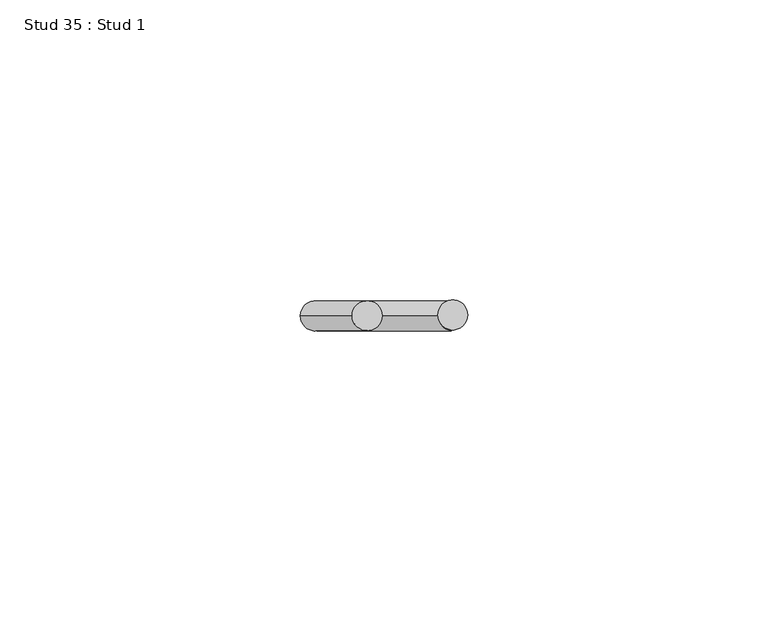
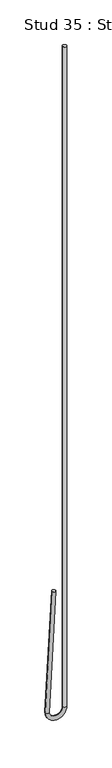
"""IFC4 building model written with IfcOpenShell, lengths in millimetres: proxy geometry, Stud 35 : Stud 1."""

import ifcopenshell
import ifcopenshell.guid

model = None  # the IFC model being written
_history = None  # IfcOwnerHistory: only IFC2X3 demands one
_inside = {}  # id of a spatial element -> (the spatial element, [elements in it])
_under = {}  # id of a project, library or spatial element -> (it, [spatial elements below it])
_declared = {}  # id of a project -> (the project, [libraries it declares])
_typed = {}  # id of a type object -> (the type object, [elements of that type])
_made_of = {}  # id of a material, layer set ... -> (it, [elements and type objects made of it])


def new_model(schema):
    """Start an empty IFC model of exactly this schema.

    Asked for "IFC4X3", IfcOpenShell would pick the latest addendum, in which some entities
    have other attributes; the version numbers below select the first issue.
    IFC2X3 requires an IfcOwnerHistory on every rooted entity: one is made here for all.
    """
    global model, _history
    if schema == "IFC4X3":
        model = ifcopenshell.file(schema_version=(4, 3, 0, 0))
    else:
        model = ifcopenshell.file(schema=schema)
    _inside.clear()
    _under.clear()
    _declared.clear()
    _typed.clear()
    _made_of.clear()
    _history = None
    if model.schema == "IFC2X3":
        org = make("IfcOrganization", Name="unknown")
        user = make(
            "IfcPersonAndOrganization",
            ThePerson=make("IfcPerson", FamilyName="unknown"),
            TheOrganization=org,
        )
        app = make(
            "IfcApplication",
            ApplicationDeveloper=org,
            Version="unknown",
            ApplicationFullName="unknown",
            ApplicationIdentifier="unknown",
        )
        _history = make(
            "IfcOwnerHistory",
            OwningUser=user,
            OwningApplication=app,
            ChangeAction="ADDED",
            CreationDate=0,
        )
    return model


def make(cls, **values):
    """One entity of the class cls with the attributes given. An attribute that is None is left unset."""
    return model.create_entity(
        cls, **{name: value for name, value in values.items() if value is not None}
    )


def rooted(cls, **values):
    """An entity with a GlobalId (a new one), such as an element, a storey or a relation."""
    return make(cls, GlobalId=ifcopenshell.guid.new(), OwnerHistory=_history, **values)


def si_unit(unit_type, name, prefix=None):
    """IfcSIUnit, for example si_unit("LENGTHUNIT", "METRE", prefix="MILLI")."""
    return make("IfcSIUnit", UnitType=unit_type, Prefix=prefix, Name=name)


def assignment(units):
    """IfcUnitAssignment: the units of a project."""
    return None if units is None else make("IfcUnitAssignment", Units=units)


def point(xyz):
    """IfcCartesianPoint."""
    return None if xyz is None else make("IfcCartesianPoint", Coordinates=xyz)


def direction(xyz):
    """IfcDirection."""
    return None if xyz is None else make("IfcDirection", DirectionRatios=xyz)


def frame(location, z_axis=None, x_axis=None):
    """IfcAxis2Placement3D, a coordinate frame: its origin and axes. An axis left out is left unset."""
    return make(
        "IfcAxis2Placement3D",
        Location=point(location),
        Axis=direction(z_axis),
        RefDirection=direction(x_axis),
    )


def origin():
    """The frame at (0, 0, 0) with its axes left unset."""
    return frame((0.0, 0.0, 0.0))


def place(relative_to, where):
    """IfcLocalPlacement: puts the frame where relative to a parent placement (None: the world)."""
    return make(
        "IfcLocalPlacement", PlacementRelTo=relative_to, RelativePlacement=where
    )


def context(
    kind, dimensions, precision=None, world=None, true_north=None, identifier=None
):
    """IfcGeometricRepresentationContext, for example the 3D "Model" context."""
    return make(
        "IfcGeometricRepresentationContext",
        ContextIdentifier=identifier,
        ContextType=kind,
        CoordinateSpaceDimension=dimensions,
        Precision=precision,
        WorldCoordinateSystem=world,
        TrueNorth=true_north,
    )


def project(units=None, contexts=None):
    """IfcProject with its units and contexts."""
    return rooted(
        "IfcProject",
        Name="project",
        RepresentationContexts=contexts,
        UnitsInContext=assignment(units),
    )


def spatial(cls, under=None, at=None, **own):
    """A site, building, storey or space (cls), placed at a placement, below another one or the project."""
    s = rooted(cls, ObjectPlacement=at, **own)
    if under is not None:
        _under.setdefault(under.id(), (under, []))[1].append(s)
    return s


def circle_curve(where, radius):
    """IfcCircle in the frame where."""
    return make("IfcCircle", Position=where, Radius=radius)


def ellipse_curve(where, semi_axis1, semi_axis2):
    """IfcEllipse in the frame where."""
    return make(
        "IfcEllipse", Position=where, SemiAxis1=semi_axis1, SemiAxis2=semi_axis2
    )


def trimmed(basis, trim1, trim2, sense, master):
    """IfcTrimmedCurve: the piece of a basis curve between two trims."""
    return make(
        "IfcTrimmedCurve",
        BasisCurve=basis,
        Trim1=trim1,
        Trim2=trim2,
        SenseAgreement=sense,
        MasterRepresentation=master,
    )


def shape(context_of_items, identifier, shape_type, items):
    """IfcShapeRepresentation: the items that make up one representation, for example the "Body"."""
    return make(
        "IfcShapeRepresentation",
        ContextOfItems=context_of_items,
        RepresentationIdentifier=identifier,
        RepresentationType=shape_type,
        Items=items,
    )


def source(mapping_origin, context_of_items, identifier, shape_type, items):
    """IfcRepresentationMap: a shape defined once, which mapped items show again and again."""
    return make(
        "IfcRepresentationMap",
        MappingOrigin=mapping_origin,
        MappedRepresentation=shape(context_of_items, identifier, shape_type, items),
    )


def transform(
    local_origin,
    x_axis=None,
    y_axis=None,
    z_axis=None,
    scale=None,
    scale2=None,
    scale3=None,
    uniform=True,
):
    """IfcCartesianTransformationOperator3D, or its non-uniform kind. x_axis, y_axis, z_axis: its Axis1, 2, 3."""
    if uniform:
        return make(
            "IfcCartesianTransformationOperator3D",
            Axis1=direction(x_axis),
            Axis2=direction(y_axis),
            LocalOrigin=point(local_origin),
            Scale=scale,
            Axis3=direction(z_axis),
        )
    return make(
        "IfcCartesianTransformationOperator3DnonUniform",
        Axis1=direction(x_axis),
        Axis2=direction(y_axis),
        LocalOrigin=point(local_origin),
        Scale=scale,
        Axis3=direction(z_axis),
        Scale2=scale2,
        Scale3=scale3,
    )


def mapped(mapping_source, mapping_target):
    """IfcMappedItem: shows the shape of a source again, moved by a transform."""
    return make(
        "IfcMappedItem", MappingSource=mapping_source, MappingTarget=mapping_target
    )


def made_of(thing, what):
    """Note that an element or type object is made of a material, layer set ...; save() writes the relation."""
    if what is not None:
        _made_of.setdefault(what.id(), (what, []))[1].append(thing)
    return thing


def element(
    cls,
    number,
    at=None,
    inside=None,
    cuts=None,
    type_object=None,
    material=None,
    context=None,
    identifier="Body",
    shape_type=None,
    held_by="IfcProductDefinitionShape",
    body=None,
    shapes=None,
    **own,
):
    """One element of the class cls, such as IfcWall. Its Tag is "e" and its number.

    at: its placement. inside: the storey or other place that contains it. cuts: it is an
    opening in that element (IfcRelVoidsElement). A single representation is given by context,
    identifier, shape_type and body (its items); several are given by shapes. held_by: the class
    of the entity that holds the representations. save() writes the other relations.
    """
    e = rooted(cls, Tag="e%d" % number, ObjectPlacement=at, **own)
    if body is not None:
        shapes = [shape(context, identifier, shape_type, body)]
    if shapes is not None:
        e.Representation = make(held_by, Representations=shapes)
    if inside is not None:
        _inside.setdefault(inside.id(), (inside, []))[1].append(e)
    if cuts is not None:
        rooted(
            "IfcRelVoidsElement", RelatingBuildingElement=cuts, RelatedOpeningElement=e
        )
    if type_object is not None:
        _typed.setdefault(type_object.id(), (type_object, []))[1].append(e)
    return made_of(e, material)


def aggregate(whole, parts):
    """IfcRelAggregates: a whole, such as a stair, and the parts it consists of."""
    return rooted("IfcRelAggregates", RelatingObject=whole, RelatedObjects=parts)


def save(model, path):
    """Write the relations noted so far, then the file.

    IfcRelAggregates (storeys below a building ...), IfcRelContainedInSpatialStructure (elements
    in a storey), IfcRelDefinesByType, IfcRelAssociatesMaterial and IfcRelDeclares: one each for
    every whole, place, type object, material and project.
    """
    for whole, parts in _under.values():
        aggregate(whole, parts)
    for where, things in _inside.values():
        rooted(
            "IfcRelContainedInSpatialStructure",
            RelatedElements=things,
            RelatingStructure=where,
        )
    for kind, things in _typed.values():
        rooted("IfcRelDefinesByType", RelatedObjects=things, RelatingType=kind)
    for what, things in _made_of.values():
        rooted("IfcRelAssociatesMaterial", RelatedObjects=things, RelatingMaterial=what)
    for by, libraries in _declared.values():
        rooted("IfcRelDeclares", RelatingContext=by, RelatedDefinitions=libraries)
    model.write(path)


def plane_surface(at):
    """IfcPlane: the flat surface through the origin of the frame at, square to its z axis."""
    return make("IfcPlane", Position=at)


def cylinder_surface(at, radius):
    """IfcCylindricalSurface: all points at the distance radius from the z axis of the frame at."""
    return make("IfcCylindricalSurface", Position=at, Radius=radius)


def revolved_surface(curve, axis_point, axis_direction):
    """IfcSurfaceOfRevolution: the curve turned about the line through axis_point along axis_direction."""
    return make(
        "IfcSurfaceOfRevolution",
        SweptCurve=make("IfcArbitraryOpenProfileDef", ProfileType="CURVE", Curve=curve),
        AxisPosition=make("IfcAxis1Placement", Location=point(axis_point), Axis=direction(axis_direction)),
    )


def advanced_brep(points, edges, surfaces, faces):
    """IfcAdvancedBrep: a solid bounded by faces that lie on surfaces and meet in shared edges.

    An edge is (start, end): straight between two places in points (the first is 0);
    or (start, end, curve); or (start, end, curve, False) where it runs against its curve.
    A face is (place in surfaces, loops), or (place, loops, False) where it looks against
    its surface's normal. A loop lists edges by number (the first is 1), with a minus sign
    where the edge is run from its end to its start. The first loop is the outer one.
    """
    corners = [point(p) for p in points]
    vertices = [make("IfcVertexPoint", VertexGeometry=c) for c in corners]
    made = []
    for start, end, *more in edges:
        made.append(
            make(
                "IfcEdgeCurve",
                EdgeStart=vertices[start],
                EdgeEnd=vertices[end],
                EdgeGeometry=more[0] if more else make("IfcPolyline", Points=[corners[start], corners[end]]),
                SameSense=more[1] if len(more) > 1 else True,
            )
        )
    hull = []
    for where, loops, *sense in faces:
        bounds = []
        for j, loop in enumerate(loops):
            ring = [make("IfcOrientedEdge", EdgeElement=made[abs(k) - 1], Orientation=k > 0) for k in loop]
            bounds.append(
                make(
                    "IfcFaceOuterBound" if j == 0 else "IfcFaceBound",
                    Bound=make("IfcEdgeLoop", EdgeList=ring),
                    Orientation=True,
                )
            )
        hull.append(make("IfcAdvancedFace", Bounds=bounds, FaceSurface=surfaces[where], SameSense=sense[0] if sense else True))
    return make("IfcAdvancedBrep", Outer=make("IfcClosedShell", CfsFaces=hull))


def stud_35_stud_1_98c25c34(model_context):
    return source(origin(), model_context, "Body", "AdvancedBrep", [
        advanced_brep(
        [(-14671.4532788, 5867.5191481, 3640.800192), (-14666.4601311, 5867.5191481, 3640.5385122), (-14680.0939451, 5867.5191481, 3475.9264558), (-14675.1007975, 5867.5191481, 3475.664776), (-14657.1920812, 5867.5191481, 3475.7956159), (-14652.1920812, 5867.5191481, 3475.7956159), (-14652.1920812, 5867.5191481, 4390.1956159), (-14657.1920812, 5867.5191481, 4390.1956159)],
        [
            (0, 1, circle_curve(frame((-14668.9567049, 5867.5191481, 3640.6693521), z_axis=(0.05233595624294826, 0.0, 0.9986295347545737), x_axis=(0.9986295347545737, 0.0, -0.05233595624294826)), 2.5)),
            (1, 0, circle_curve(frame((-14668.9567049, 5867.5191481, 3640.6693521), z_axis=(0.05233595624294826, 0.0, 0.9986295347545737), x_axis=(0.9986295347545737, 0.0, -0.05233595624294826)), 2.5)),
            (0, 2),
            (2, 3, circle_curve(frame((-14677.5973713, 5867.5191481, 3475.7956159), z_axis=(0.05233595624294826, 0.0, 0.9986295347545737), x_axis=(0.9986295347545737, 0.0, -0.05233595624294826)), 2.5)),
            (3, 1),
            (3, 2, circle_curve(frame((-14677.5973713, 5867.5191481, 3475.7956159), z_axis=(0.05233595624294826, 0.0, 0.9986295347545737), x_axis=(0.9986295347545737, 0.0, -0.05233595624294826)), 2.5)),
            (4, 3, circle_curve(frame((-14666.1447263, 5867.5191481, 3475.7956159), z_axis=(0.0, 1.0, 0.0), x_axis=(-1.0, 0.0, 0.0)), 8.952645)),
            (2, 5, circle_curve(frame((-14666.1447263, 5867.5191481, 3475.7956159), z_axis=(0.0, -1.0, 0.0), x_axis=(-1.0, 0.0, 0.0)), 13.952645)),
            (5, 4, circle_curve(frame((-14654.6920812, 5867.5191481, 3475.7956159), z_axis=(0.0, 0.0, -1.0), x_axis=(-1.0, 0.0, 0.0)), 2.5)),
            (4, 5, circle_curve(frame((-14654.6920812, 5867.5191481, 3475.7956159), z_axis=(0.0, 0.0, -1.0), x_axis=(-1.0, 0.0, 0.0)), 2.5)),
            (6, 7, circle_curve(frame((-14654.6920812, 5867.5191481, 4390.1956159), z_axis=(0.0, 0.0, 1.0), x_axis=(-1.0, 0.0, 0.0)), 2.5)),
            (7, 6, circle_curve(frame((-14654.6920812, 5867.5191481, 4390.1956159), z_axis=(0.0, 0.0, 1.0), x_axis=(-1.0, 0.0, 0.0)), 2.5)),
            (5, 6),
            (7, 4),
        ],
        [
            plane_surface(frame((-14668.9567049, 6461.2441481, 3640.6693521), z_axis=(0.05233595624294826, 0.0, 0.9986295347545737), x_axis=(0.0, -1.0, 0.0))),
            cylinder_surface(frame((-14668.9567049, 5867.5191481, 3640.6693521), z_axis=(0.05233595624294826, 0.0, 0.9986295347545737), x_axis=(0.9986295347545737, 0.0, -0.05233595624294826)), 2.5),
            revolved_surface(trimmed(ellipse_curve(frame((-14677.5973713, 5867.5191481, 3475.7956159), z_axis=(0.0, 0.0, 1.0), x_axis=(1.0, 0.0, 0.0)), 2.5, 2.5), [point((-14680.0973713, 5867.5191481, 3475.7956159))], [point((-14675.0973713, 5867.5191481, 3475.7956159))], True, "CARTESIAN"), (-14666.1447263, 6461.2441481, 3475.7956159), (0.0, -1.0, 0.0)),
            revolved_surface(trimmed(ellipse_curve(frame((-14677.5973713, 5867.5191481, 3475.7956159), z_axis=(0.0, 0.0, 1.0), x_axis=(1.0, 0.0, 0.0)), 2.5, 2.5), [point((-14675.0973713, 5867.5191481, 3475.7956159))], [point((-14680.0973713, 5867.5191481, 3475.7956159))], True, "CARTESIAN"), (-14666.1447263, 6461.2441481, 3475.7956159), (0.0, -1.0, 0.0)),
            plane_surface(frame((-14654.6920812, 6461.2441481, 4390.1956159), z_axis=(0.0, 0.0, 1.0), x_axis=(0.0, -1.0, 0.0))),
            cylinder_surface(frame((-14654.6920812, 5867.5191481, 3475.7956159), z_axis=(0.0, 0.0, -1.0), x_axis=(-1.0, 0.0, 0.0)), 2.5),
        ],
        [
            (0, [[1, 2]]),
            (1, [[-1, 3, 4, 5]]),
            (1, [[-2, -5, 6, -3]]),
            (2, [[7, -4, 8, 9]]),
            (3, [[-8, -6, -7, 10]]),
            (4, [[11, 12]]),
            (5, [[-9, 13, -12, 14]]),
            (5, [[-10, -14, -11, -13]]),
        ],
    ),
    ])


if __name__ == "__main__":
    model = new_model("IFC4")
    model_context = context("Model", 3, world=origin())
    ifc_project = project(units=[si_unit("LENGTHUNIT", "METRE", prefix="MILLI")], contexts=[model_context])
    site = spatial("IfcSite", under=ifc_project)
    building = spatial("IfcBuilding", under=site)
    placement = place(None, origin())
    stud_35_stud_1_shape = stud_35_stud_1_98c25c34(model_context)
    element("IfcBuildingElementProxy", 1, Name="Stud 35 : Stud 1", ObjectType="Stud 35 : Stud 1", at=placement, inside=building, context=model_context, shape_type="MappedRepresentation", body=[
        mapped(stud_35_stud_1_shape, transform((0.0, 0.0, 0.0), x_axis=(1.0, 0.0, 0.0), y_axis=(0.0, 1.0, 0.0), z_axis=(0.0, 0.0, 1.0))),
    ])
    save(model, "model.ifc")
